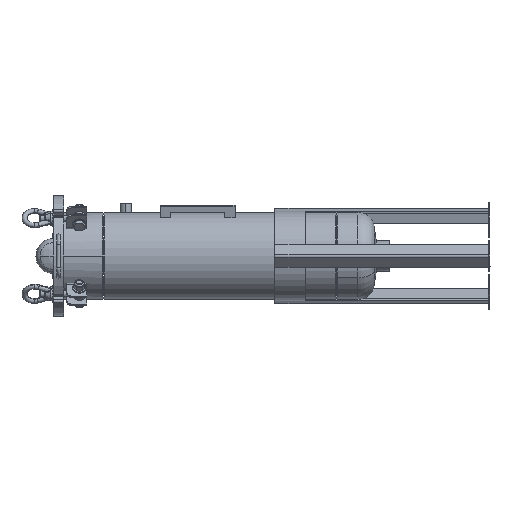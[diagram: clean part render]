
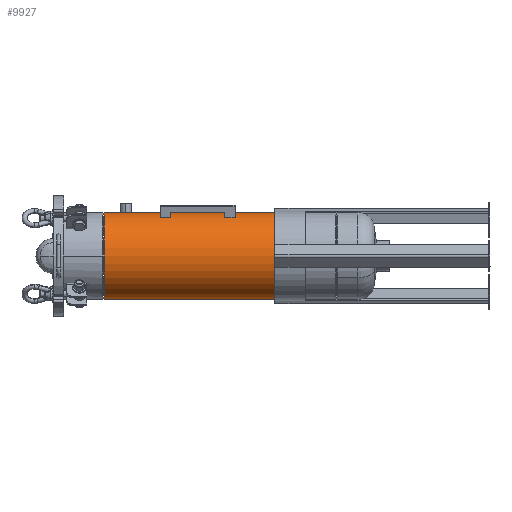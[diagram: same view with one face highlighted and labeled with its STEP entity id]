
A CAD part, left-side view. The second image highlights one B-rep face of the part: STEP entity #9927.
In plain terms, the highlighted cylindrical face has radius 109.537 mm (diameter 219.075 mm), a partial arc.
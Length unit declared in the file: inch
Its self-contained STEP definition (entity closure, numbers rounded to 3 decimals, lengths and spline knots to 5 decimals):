
#136 = EDGE_CURVE ( 'NONE', #6702, #18483, #6641, .T. ) ;
#2487 = CARTESIAN_POINT ( 'NONE',  ( 0., -3.71875, 4.3125 ) ) ;
#2590 = CARTESIAN_POINT ( 'NONE',  ( 0., -20.6875, 4.3125 ) ) ;
#3465 = AXIS2_PLACEMENT_3D ( 'NONE', #15023, #25821, #15378 ) ;
#3570 = DIRECTION ( 'NONE',  ( 0., -1., 0. ) ) ;
#4096 = CARTESIAN_POINT ( 'NONE',  ( 0., -20.6875, 0. ) ) ;
#4435 = VERTEX_POINT ( 'NONE', #22192 ) ;
#5247 = EDGE_LOOP ( 'NONE', ( #14505, #19836, #12052, #22495 ) ) ;
#6145 = EDGE_CURVE ( 'NONE', #34179, #4435, #28518, .T. ) ;
#6641 = CIRCLE ( 'NONE', #26096, 4.3125 ) ;
#6702 = VERTEX_POINT ( 'NONE', #2590 ) ;
#7822 = DIRECTION ( 'NONE',  ( 0., 0., -1. ) ) ;
#9927 = ADVANCED_FACE ( 'NONE', ( #31019 ), #15342, .T. ) ;
#11452 = EDGE_CURVE ( 'NONE', #4435, #6702, #13283, .T. ) ;
#12052 = ORIENTED_EDGE ( 'NONE', *, *, #26705, .T. ) ;
#13118 = DIRECTION ( 'NONE',  ( 0., -1., 0. ) ) ;
#13283 = LINE ( 'NONE', #2487, #30941 ) ;
#13705 = CARTESIAN_POINT ( 'NONE',  ( 0., -20.6875, -4.3125 ) ) ;
#14505 = ORIENTED_EDGE ( 'NONE', *, *, #11452, .F. ) ;
#15023 = CARTESIAN_POINT ( 'NONE',  ( 0., -3.71875, 0. ) ) ;
#15342 = CYLINDRICAL_SURFACE ( 'NONE', #17514, 4.3125 ) ;
#15378 = DIRECTION ( 'NONE',  ( 0., 0., 1. ) ) ;
#16970 = CARTESIAN_POINT ( 'NONE',  ( 0., -3.71875, -4.3125 ) ) ;
#17092 = LINE ( 'NONE', #25269, #19281 ) ;
#17514 = AXIS2_PLACEMENT_3D ( 'NONE', #31690, #33941, #7822 ) ;
#18483 = VERTEX_POINT ( 'NONE', #13705 ) ;
#19281 = VECTOR ( 'NONE', #27362, 39.37008 ) ;
#19836 = ORIENTED_EDGE ( 'NONE', *, *, #6145, .F. ) ;
#22192 = CARTESIAN_POINT ( 'NONE',  ( 0., -3.71875, 4.3125 ) ) ;
#22495 = ORIENTED_EDGE ( 'NONE', *, *, #136, .F. ) ;
#25269 = CARTESIAN_POINT ( 'NONE',  ( 0., -3.71875, -4.3125 ) ) ;
#25821 = DIRECTION ( 'NONE',  ( 0., 1., 0. ) ) ;
#26096 = AXIS2_PLACEMENT_3D ( 'NONE', #4096, #3570, #32829 ) ;
#26705 = EDGE_CURVE ( 'NONE', #34179, #18483, #17092, .T. ) ;
#27362 = DIRECTION ( 'NONE',  ( 0., -1., 0. ) ) ;
#28518 = CIRCLE ( 'NONE', #3465, 4.3125 ) ;
#30941 = VECTOR ( 'NONE', #13118, 39.37008 ) ;
#31019 = FACE_OUTER_BOUND ( 'NONE', #5247, .T. ) ;
#31690 = CARTESIAN_POINT ( 'NONE',  ( 0., -3.71875, 0. ) ) ;
#32829 = DIRECTION ( 'NONE',  ( 0., 0., -1. ) ) ;
#33941 = DIRECTION ( 'NONE',  ( 0., -1., 0. ) ) ;
#34179 = VERTEX_POINT ( 'NONE', #16970 ) ;
